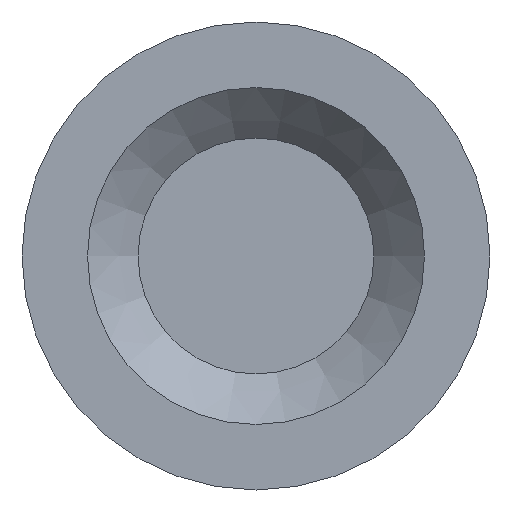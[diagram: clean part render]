
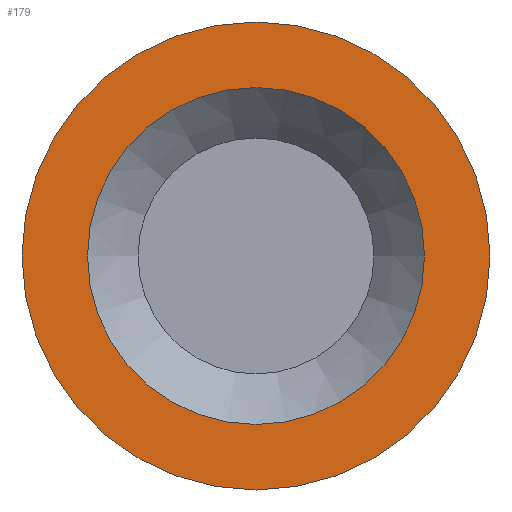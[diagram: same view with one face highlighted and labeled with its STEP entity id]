
A CAD part, left-side view. The second image highlights one B-rep face of the part: STEP entity #179.
In plain terms, the highlighted planar face has unit normal (-1, 0, 0).
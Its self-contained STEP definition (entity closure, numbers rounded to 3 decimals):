
#15=PLANE($,#205);
#28=FACE_BOUND($,#65,.T.);
#44=FACE_OUTER_BOUND($,#64,.T.);
#64=EDGE_LOOP($,(#144));
#65=EDGE_LOOP($,(#145));
#91=CIRCLE($,#204,1.143);
#92=CIRCLE($,#206,1.588);
#107=VERTEX_POINT($,#311);
#108=VERTEX_POINT($,#314);
#123=EDGE_CURVE($,#107,#107,#91,.T.);
#124=EDGE_CURVE($,#108,#108,#92,.T.);
#144=ORIENTED_EDGE($,*,*,#124,.F.);
#145=ORIENTED_EDGE($,*,*,#123,.T.);
#179=ADVANCED_FACE($,(#44,#28),#15,.T.);
#204=AXIS2_PLACEMENT_3D($,#312,#249,#250);
#205=AXIS2_PLACEMENT_3D($,#313,#251,#252);
#206=AXIS2_PLACEMENT_3D($,#315,#253,#254);
#249=DIRECTION('center_axis',(1.,0.,0.));
#250=DIRECTION('ref_axis',(0.,1.,0.));
#251=DIRECTION('center_axis',(-1.,0.,0.));
#252=DIRECTION('ref_axis',(0.,0.,1.));
#253=DIRECTION('center_axis',(1.,0.,0.));
#254=DIRECTION('ref_axis',(0.,1.,0.));
#311=CARTESIAN_POINT('',(5.029,1.143,0.));
#312=CARTESIAN_POINT('Origin',(5.029,0.,0.));
#313=CARTESIAN_POINT('Origin',(5.029,1.365,0.));
#314=CARTESIAN_POINT('',(5.029,1.588,0.));
#315=CARTESIAN_POINT('Origin',(5.029,0.,0.));
